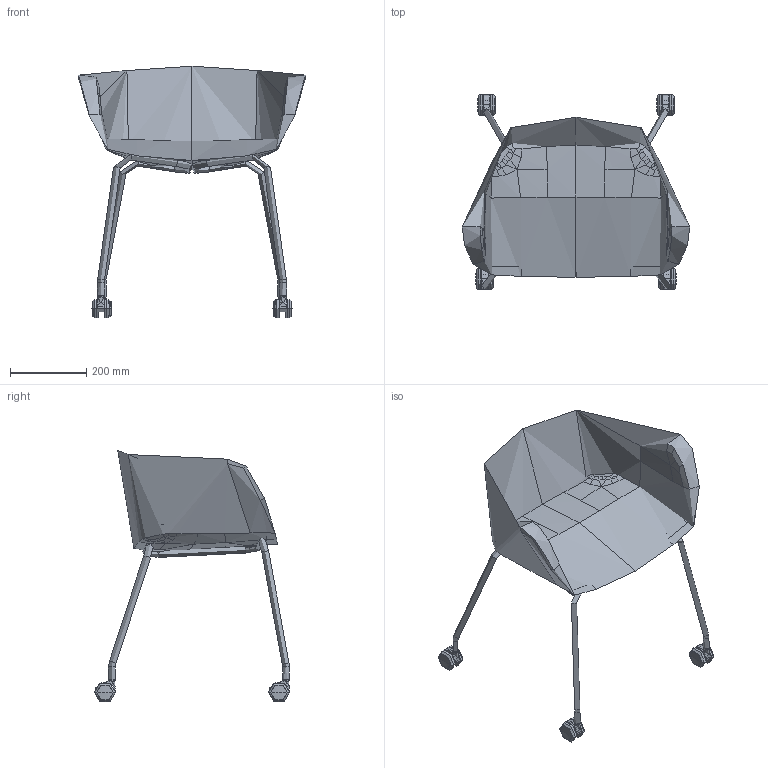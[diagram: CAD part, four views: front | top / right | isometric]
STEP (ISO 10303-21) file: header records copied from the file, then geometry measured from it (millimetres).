
FILE_DESCRIPTION(/* description */ (''),/* implementation_level */ '2;1');
FILE_NAME(/* name */ 'RIVA RI-02-N1,RU55',/* time_stamp */ '2025-06-10T11:19:55+02:00',/* author */ (''),/* organization */ (''),/* preprocessor_version */ 'ST-DEVELOPER v19.2',/* originating_system */ 'Rhino 8.19',/* authorisation */ '');
FILE_SCHEMA (('AUTOMOTIVE_DESIGN_CC2'));
Length unit declared in the file: millimetre
Products named in the file (1): Document
Bounding box: 595.19 x 510.68 x 658.68 mm (x, y, z)
Volume: 304383.7 mm3; surface area: 1320554.8 mm2
Topology: 24 solids, 40 shells, 587 faces, 1304 edges, 780 vertices
Faces by surface type: bspline 285, cylinder 178, plane 124
Full cylindrical faces by diameter (mm): 8.5 x4, 10 x4, 14 x4, 18 x18
Entity records: 48199 total; most frequent: CARTESIAN_POINT 37238, ORIENTED_EDGE 2537, EDGE_CURVE 1297, DIRECTION 1275, AXIS2_PLACEMENT_3D 788, B_SPLINE_CURVE_WITH_KNOTS 787, VERTEX_POINT 776, EDGE_LOOP 607
